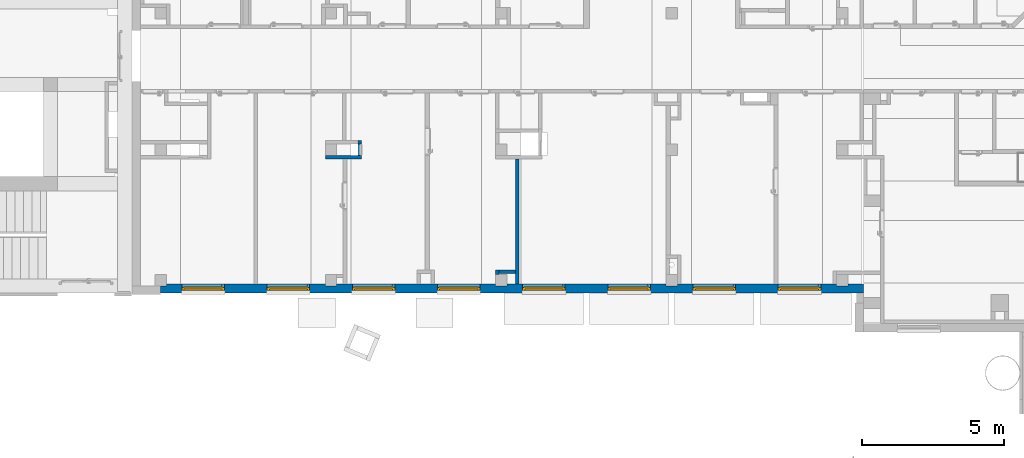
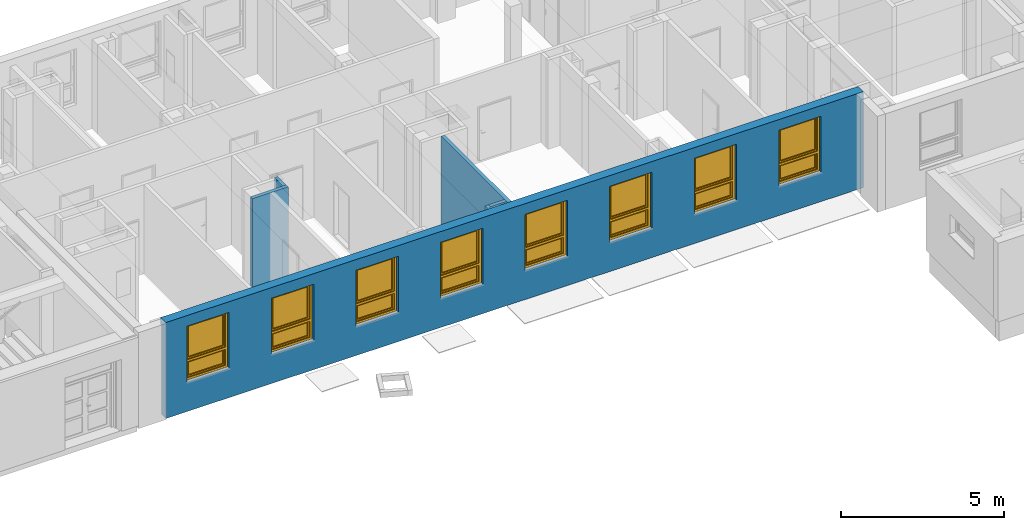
# One storey, part 16 of 140: 8 windows, 6 walls, 9 openings.
"""IFC4 building model written with IfcOpenShell, lengths in metres."""

from ifc_helpers import new_model, entity, si_unit, converted_unit, derived_unit, frame, frame_2d, origin, origin_with_axes, place, context, subcontext, project, spatial, polyline, rectangle, outline, extrude, clip, bounded_halfspace, closed_shell, open_shell, surface_model, source, transform, mapped, material, layer, layer_set, layer_usage, element, fill, save


model = new_model("IFC4")

# Units and contexts
model_context = context("Model", 3, precision=1e-05, world=origin())
body_context = subcontext(model_context, "Body", "Model", "MODEL_VIEW")
ifc_project = project(units=[si_unit("LENGTHUNIT", "METRE"), si_unit("AREAUNIT", "SQUARE_METRE"), si_unit("VOLUMEUNIT", "CUBIC_METRE"), si_unit("MASSUNIT", "GRAM", prefix="KILO"), converted_unit("PLANEANGLEUNIT", "DEGREE", entity("IfcPlaneAngleMeasure", 0.0174532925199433), si_unit("PLANEANGLEUNIT", "RADIAN"), dimensions=[0, 0, 0, 0, 0, 0, 0]), derived_unit("THERMALTRANSMITTANCEUNIT", [(si_unit("POWERUNIT", "WATT"), 1), (si_unit("THERMODYNAMICTEMPERATUREUNIT", "KELVIN"), -1), (si_unit("LENGTHUNIT", "METRE"), -2)]), derived_unit("VOLUMETRICFLOWRATEUNIT", [(si_unit("LENGTHUNIT", "METRE"), 3), (converted_unit("TIMEUNIT", "hour", entity("IfcTimeMeasure", 3600.0), si_unit("TIMEUNIT", "SECOND"), dimensions=[0, 0, 1, 0, 0, 0, 0]), -1), (si_unit("LENGTHUNIT", "METRE"), -1)])], contexts=[model_context])

# Site, building, storey
site_placement = place(None, origin())
site = spatial("IfcSite", under=ifc_project, at=site_placement, Name="3. ASŘ", CompositionType="ELEMENT")
building_placement = place(site_placement, origin())
building = spatial("IfcBuilding", under=site, at=building_placement, Name="Pavilon C", CompositionType="ELEMENT")
storey_placement = place(building_placement, origin())
storey = spatial("IfcBuildingStorey", under=building, at=storey_placement, Name="Půdorys 1.NP", CompositionType="ELEMENT", Elevation=0.0)

# Wall, openings, windows
ifc_material_1 = material(Name="ZELEZOBETONOVÁ KCE")
ifc_layer_1 = layer(ifc_material_1, 0.32)
ifc_layer_set_1 = layer_set([ifc_layer_1])
ifc_layer_usage_1 = layer_usage(ifc_layer_set_1, "AXIS2", "POSITIVE", 0.0)
wall_1_placement = place(storey_placement, frame((3.86535248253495e-15, 0.350000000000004, -0.1)))
wall_1 = element("IfcWall", 1, at=wall_1_placement, inside=storey, material=ifc_layer_usage_1, Name="ZELEZOBETONOVÁ KCE", context=body_context, shape_type="Clipping", body=[
    clip(clip(clip(clip(clip(extrude(rectangle(XDim=24.75, YDim=0.32, at=frame_2d((12.375, 0.16), x_axis=(1.0, 0.0))), origin_with_axes(), (0.0, 0.0, 1.0), 3.6), bounded_halfspace(frame((0.100000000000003, 0.285, 3.35), z_axis=(0.0, 0.0, 1.0), x_axis=(0.0, -1.0, 0.0)), True, origin_with_axes(), polyline([(-2.27373675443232e-16, 0.32), (-2.27373675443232e-16, 0.25), (0.200000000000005, 0.25), (0.200000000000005, 0.32), (-2.27373675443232e-16, 0.32)]))), bounded_halfspace(frame((18.0, 0.284999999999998, 3.35), z_axis=(0.0, 0.0, 1.0), x_axis=(-1.0, 0.0, 0.0)), True, origin_with_axes(), polyline([(18.2, 0.32), (17.8, 0.32), (17.8, 0.249999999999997), (18.2, 0.249999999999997), (18.2, 0.32)]))), bounded_halfspace(frame((12.0, 0.284999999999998, 3.35), z_axis=(0.0, 0.0, 1.0), x_axis=(-1.0, 0.0, 0.0)), True, origin_with_axes(), polyline([(12.2, 0.32), (11.8, 0.32), (11.8, 0.249999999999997), (12.2, 0.249999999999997), (12.2, 0.32)]))), bounded_halfspace(frame((6.00000000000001, 0.284999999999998, 3.35), z_axis=(0.0, 0.0, 1.0), x_axis=(-1.0, 0.0, 0.0)), True, origin_with_axes(), polyline([(6.20000000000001, 0.32), (5.80000000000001, 0.32), (5.80000000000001, 0.249999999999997), (6.20000000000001, 0.249999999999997), (6.20000000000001, 0.32)]))), bounded_halfspace(frame((24.0, 0.284999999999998, 3.35), z_axis=(0.0, 0.0, 1.0), x_axis=(-1.0, 0.0, 0.0)), True, origin_with_axes(), polyline([(24.2, 0.32), (23.8, 0.32), (23.8, 0.249999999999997), (24.2, 0.249999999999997), (24.2, 0.32)]))),
])
opening_1_placement = place(wall_1_placement, frame((3.75, 0.0, 1.1), z_axis=(0.0, 1.0, 0.0), x_axis=(0.0, 0.0, 1.0)))
opening_1 = element("IfcOpeningElement", 2, at=opening_1_placement, cuts=wall_1, Name="Okenní otvor", ObjectType="Opening", context=body_context, shape_type="SweptSolid", body=[
    extrude(outline(polyline([(0.0, 1.5), (2.1, 1.5), (2.1, 0.0), (0.0, 0.0), (0.0, 1.5)])), origin_with_axes(), (0.0, 0.0, 1.0), 0.32),
])
opening_2_placement = place(wall_1_placement, frame((6.75, 0.0, 1.1), z_axis=(0.0, 1.0, 0.0), x_axis=(0.0, 0.0, 1.0)))
opening_2 = element("IfcOpeningElement", 3, at=opening_2_placement, cuts=wall_1, Name="Okenní otvor", ObjectType="Opening", context=body_context, shape_type="SweptSolid", body=[
    extrude(outline(polyline([(0.0, 1.5), (2.1, 1.5), (2.1, 0.0), (0.0, 0.0), (0.0, 1.5)])), origin_with_axes(), (0.0, 0.0, 1.0), 0.32),
])
opening_3_placement = place(wall_1_placement, frame((9.75, 0.0, 1.1), z_axis=(0.0, 1.0, 0.0), x_axis=(0.0, 0.0, 1.0)))
opening_3 = element("IfcOpeningElement", 4, at=opening_3_placement, cuts=wall_1, Name="Okenní otvor", ObjectType="Opening", context=body_context, shape_type="SweptSolid", body=[
    extrude(outline(polyline([(0.0, 1.5), (2.1, 1.5), (2.1, 0.0), (0.0, 0.0), (0.0, 1.5)])), origin_with_axes(), (0.0, 0.0, 1.0), 0.32),
])
opening_4_placement = place(wall_1_placement, frame((12.75, 0.0, 1.1), z_axis=(0.0, 1.0, 0.0), x_axis=(0.0, 0.0, 1.0)))
opening_4 = element("IfcOpeningElement", 5, at=opening_4_placement, cuts=wall_1, Name="Okenní otvor", ObjectType="Opening", context=body_context, shape_type="SweptSolid", body=[
    extrude(outline(polyline([(0.0, 1.5), (2.1, 1.5), (2.1, 0.0), (0.0, 0.0), (0.0, 1.5)])), origin_with_axes(), (0.0, 0.0, 1.0), 0.32),
])
opening_5_placement = place(wall_1_placement, frame((15.75, 0.0, 1.1), z_axis=(0.0, 1.0, 0.0), x_axis=(0.0, 0.0, 1.0)))
opening_5 = element("IfcOpeningElement", 6, at=opening_5_placement, cuts=wall_1, Name="Okenní otvor", ObjectType="Opening", context=body_context, shape_type="SweptSolid", body=[
    extrude(outline(polyline([(0.0, 1.5), (2.1, 1.5), (2.1, 0.0), (0.0, 0.0), (0.0, 1.5)])), origin_with_axes(), (0.0, 0.0, 1.0), 0.32),
])
opening_6_placement = place(wall_1_placement, frame((18.75, 0.0, 1.1), z_axis=(0.0, 1.0, 0.0), x_axis=(0.0, 0.0, 1.0)))
opening_6 = element("IfcOpeningElement", 7, at=opening_6_placement, cuts=wall_1, Name="Okenní otvor", ObjectType="Opening", context=body_context, shape_type="SweptSolid", body=[
    extrude(outline(polyline([(0.0, 1.5), (2.1, 1.5), (2.1, 0.0), (0.0, 0.0), (0.0, 1.5)])), origin_with_axes(), (0.0, 0.0, 1.0), 0.32),
])
opening_7_placement = place(wall_1_placement, frame((21.75, 0.0, 1.1), z_axis=(0.0, 1.0, 0.0), x_axis=(0.0, 0.0, 1.0)))
opening_7 = element("IfcOpeningElement", 8, at=opening_7_placement, cuts=wall_1, Name="Okenní otvor", ObjectType="Opening", context=body_context, shape_type="SweptSolid", body=[
    extrude(outline(polyline([(0.0, 1.5), (2.1, 1.5), (2.1, 0.0), (0.0, 0.0), (0.0, 1.5)])), origin_with_axes(), (0.0, 0.0, 1.0), 0.32),
])
opening_8_placement = place(wall_1_placement, frame((0.75, 0.0, 1.1), z_axis=(0.0, 1.0, 0.0), x_axis=(0.0, 0.0, 1.0)))
opening_8 = element("IfcOpeningElement", 9, at=opening_8_placement, cuts=wall_1, Name="Okenní otvor", ObjectType="Opening", context=body_context, shape_type="SweptSolid", body=[
    extrude(outline(polyline([(0.0, 1.5), (2.1, 1.5), (2.1, 0.0), (0.0, 0.0), (0.0, 1.5)])), origin_with_axes(), (0.0, 0.0, 1.0), 0.32),
])
shared_shape = source(origin_with_axes(), body_context, "Body", "SurfaceModel", [
    surface_model("IfcShellBasedSurfaceModel", [(0.0, 0.182, 2.1), (0.0, 0.182, -5.63337527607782e-18), (0.08, 0.182, -5.63337527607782e-18), (0.08, 0.182, 2.1), (0.0, 0.0899999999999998, 5.63337527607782e-18), (0.0, 0.0900000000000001, 2.1), (0.08, 0.0900000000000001, 2.1), (0.08, 0.0899999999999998, 5.63337527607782e-18)], [closed_shell([[[0, 1, 2, 3]], [[4, 5, 6, 7]], [[1, 0, 5, 4]], [[2, 1, 4, 7]], [[3, 2, 7, 6]], [[0, 3, 6, 5]]], orient=[[False], [False], [False], [False], [False], [False]])]),
    surface_model("IfcShellBasedSurfaceModel", [(1.42, 0.182, 2.1), (1.42, 0.182, -5.63337527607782e-18), (1.5, 0.182, -5.63337527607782e-18), (1.5, 0.182, 2.1), (1.42, 0.0899999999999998, 5.63337527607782e-18), (1.42, 0.0900000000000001, 2.1), (1.5, 0.0900000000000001, 2.1), (1.5, 0.0899999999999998, 5.63337527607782e-18)], [closed_shell([[[0, 1, 2, 3]], [[4, 5, 6, 7]], [[1, 0, 5, 4]], [[2, 1, 4, 7]], [[3, 2, 7, 6]], [[0, 3, 6, 5]]], orient=[[False], [False], [False], [False], [False], [False]])]),
    surface_model("IfcShellBasedSurfaceModel", [(0.08, 0.182, 0.08), (0.08, 0.182, -5.63337527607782e-18), (1.42, 0.182, -5.63337527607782e-18), (1.42, 0.182, 0.08), (0.08, 0.0899999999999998, 5.63337527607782e-18), (0.08, 0.0899999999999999, 0.08), (1.42, 0.0899999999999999, 0.08), (1.42, 0.0899999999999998, 5.63337527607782e-18)], [closed_shell([[[0, 1, 2, 3]], [[4, 5, 6, 7]], [[1, 0, 5, 4]], [[2, 1, 4, 7]], [[3, 2, 7, 6]], [[0, 3, 6, 5]]], orient=[[False], [False], [False], [False], [False], [False]])]),
    surface_model("IfcShellBasedSurfaceModel", [(0.08, 0.182, 2.1), (0.08, 0.182, 2.02), (1.42, 0.182, 2.02), (1.42, 0.182, 2.1), (0.08, 0.0900000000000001, 2.02), (0.08, 0.0900000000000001, 2.1), (1.42, 0.0900000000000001, 2.1), (1.42, 0.0900000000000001, 2.02)], [closed_shell([[[0, 1, 2, 3]], [[4, 5, 6, 7]], [[1, 0, 5, 4]], [[2, 1, 4, 7]], [[3, 2, 7, 6]], [[0, 3, 6, 5]]], orient=[[False], [False], [False], [False], [False], [False]])]),
    surface_model("IfcShellBasedSurfaceModel", [(0.08, 0.182, 0.76), (0.08, 0.182, 0.68), (1.42, 0.182, 0.68), (1.42, 0.182, 0.76), (0.08, 0.0899999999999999, 0.68), (0.08, 0.0899999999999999, 0.76), (1.42, 0.0899999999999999, 0.76), (1.42, 0.0899999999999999, 0.68)], [closed_shell([[[0, 1, 2, 3]], [[4, 5, 6, 7]], [[1, 0, 5, 4]], [[2, 1, 4, 7]], [[3, 2, 7, 6]], [[0, 3, 6, 5]]], orient=[[False], [False], [False], [False], [False], [False]])]),
    surface_model("IfcShellBasedSurfaceModel", [(0.05, 0.145, 0.71), (0.05, 0.145, 0.05), (0.13, 0.145, 0.05), (0.13, 0.145, 0.71), (0.05, 0.0599999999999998, 0.05), (0.05, 0.0599999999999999, 0.71), (0.13, 0.0599999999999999, 0.71), (0.13, 0.0599999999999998, 0.05)], [closed_shell([[[0, 1, 2, 3]], [[4, 5, 6, 7]], [[1, 0, 5, 4]], [[2, 1, 4, 7]], [[3, 2, 7, 6]], [[0, 3, 6, 5]]], orient=[[False], [False], [False], [False], [False], [False]])]),
    surface_model("IfcShellBasedSurfaceModel", [(1.37, 0.145, 0.71), (1.37, 0.145, 0.05), (1.45, 0.145, 0.05), (1.45, 0.145, 0.71), (1.37, 0.0599999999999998, 0.05), (1.37, 0.0599999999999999, 0.71), (1.45, 0.0599999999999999, 0.71), (1.45, 0.0599999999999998, 0.05)], [closed_shell([[[0, 1, 2, 3]], [[4, 5, 6, 7]], [[1, 0, 5, 4]], [[2, 1, 4, 7]], [[3, 2, 7, 6]], [[0, 3, 6, 5]]], orient=[[False], [False], [False], [False], [False], [False]])]),
    surface_model("IfcShellBasedSurfaceModel", [(0.13, 0.145, 0.13), (0.13, 0.145, 0.05), (1.37, 0.145, 0.05), (1.37, 0.145, 0.13), (0.13, 0.0599999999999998, 0.05), (0.13, 0.0599999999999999, 0.13), (1.37, 0.0599999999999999, 0.13), (1.37, 0.0599999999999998, 0.05)], [closed_shell([[[0, 1, 2, 3]], [[4, 5, 6, 7]], [[1, 0, 5, 4]], [[2, 1, 4, 7]], [[3, 2, 7, 6]], [[0, 3, 6, 5]]], orient=[[False], [False], [False], [False], [False], [False]])]),
    surface_model("IfcShellBasedSurfaceModel", [(0.13, 0.145, 0.71), (0.13, 0.145, 0.63), (1.37, 0.145, 0.63), (1.37, 0.145, 0.71), (0.13, 0.0599999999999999, 0.63), (0.13, 0.0599999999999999, 0.71), (1.37, 0.0599999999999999, 0.71), (1.37, 0.0599999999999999, 0.63)], [closed_shell([[[0, 1, 2, 3]], [[4, 5, 6, 7]], [[1, 0, 5, 4]], [[2, 1, 4, 7]], [[3, 2, 7, 6]], [[0, 3, 6, 5]]], orient=[[False], [False], [False], [False], [False], [False]])]),
    surface_model("IfcShellBasedSurfaceModel", [(0.05, 0.145, 2.05), (0.05, 0.145, 0.73), (0.13, 0.145, 0.73), (0.13, 0.145, 2.05), (0.05, 0.0599999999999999, 0.73), (0.05, 0.0600000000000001, 2.05), (0.13, 0.0600000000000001, 2.05), (0.13, 0.0599999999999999, 0.73)], [closed_shell([[[0, 1, 2, 3]], [[4, 5, 6, 7]], [[1, 0, 5, 4]], [[2, 1, 4, 7]], [[3, 2, 7, 6]], [[0, 3, 6, 5]]], orient=[[False], [False], [False], [False], [False], [False]])]),
    surface_model("IfcShellBasedSurfaceModel", [(1.37, 0.145, 2.05), (1.37, 0.145, 0.73), (1.45, 0.145, 0.73), (1.45, 0.145, 2.05), (1.37, 0.0599999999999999, 0.73), (1.37, 0.0600000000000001, 2.05), (1.45, 0.0600000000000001, 2.05), (1.45, 0.0599999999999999, 0.73)], [closed_shell([[[0, 1, 2, 3]], [[4, 5, 6, 7]], [[1, 0, 5, 4]], [[2, 1, 4, 7]], [[3, 2, 7, 6]], [[0, 3, 6, 5]]], orient=[[False], [False], [False], [False], [False], [False]])]),
    surface_model("IfcShellBasedSurfaceModel", [(0.13, 0.145, 0.81), (0.13, 0.145, 0.73), (1.37, 0.145, 0.73), (1.37, 0.145, 0.81), (0.13, 0.0599999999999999, 0.73), (0.13, 0.0599999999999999, 0.81), (1.37, 0.0599999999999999, 0.81), (1.37, 0.0599999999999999, 0.73)], [closed_shell([[[0, 1, 2, 3]], [[4, 5, 6, 7]], [[1, 0, 5, 4]], [[2, 1, 4, 7]], [[3, 2, 7, 6]], [[0, 3, 6, 5]]], orient=[[False], [False], [False], [False], [False], [False]])]),
    surface_model("IfcShellBasedSurfaceModel", [(0.13, 0.145, 2.05), (0.13, 0.145, 1.97), (1.37, 0.145, 1.97), (1.37, 0.145, 2.05), (0.13, 0.0600000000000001, 1.97), (0.13, 0.0600000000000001, 2.05), (1.37, 0.0600000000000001, 2.05), (1.37, 0.0600000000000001, 1.97)], [closed_shell([[[0, 1, 2, 3]], [[4, 5, 6, 7]], [[1, 0, 5, 4]], [[2, 1, 4, 7]], [[3, 2, 7, 6]], [[0, 3, 6, 5]]], orient=[[False], [False], [False], [False], [False], [False]])]),
    surface_model("IfcShellBasedSurfaceModel", [(0.0775, 0.06, 1.41), (0.0775, 0.06, 1.37), (0.1025, 0.06, 1.37), (0.1025, 0.06, 1.41), (0.0775, 0.05, 1.37), (0.0775, 0.05, 1.41), (0.1025, 0.05, 1.41), (0.1025, 0.05, 1.37)], [closed_shell([[[0, 1, 2, 3]], [[4, 5, 6, 7]], [[1, 0, 5, 4]], [[2, 1, 4, 7]], [[3, 2, 7, 6]], [[0, 3, 6, 5]]], orient=[[False], [False], [False], [False], [False], [False]])]),
    surface_model("IfcShellBasedSurfaceModel", [(0.1, 0.05, 1.39), (0.0986602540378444, 0.05, 1.395), (0.095, 0.05, 1.39866025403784), (0.09, 0.05, 1.4), (0.085, 0.05, 1.39866025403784), (0.0813397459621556, 0.05, 1.395), (0.08, 0.05, 1.39), (0.0813397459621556, 0.05, 1.385), (0.085, 0.05, 1.38133974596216), (0.09, 0.05, 1.38), (0.095, 0.05, 1.38133974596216), (0.0986602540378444, 0.05, 1.385), (0.1, 0.01, 1.39), (0.0986602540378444, 0.00500000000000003, 1.395), (0.095, 0.00133974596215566, 1.39866025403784), (0.09, 2.8421709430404e-17, 1.4), (0.085, 0.00133974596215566, 1.39866025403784), (0.0813397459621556, 0.00500000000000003, 1.395), (0.08, 0.01, 1.39), (0.0813397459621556, 0.015, 1.385), (0.085, 0.0186602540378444, 1.38133974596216), (0.09, 0.02, 1.38), (0.095, 0.0186602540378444, 1.38133974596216), (0.0986602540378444, 0.015, 1.385), (0.1, 0.01, 1.275), (0.0986602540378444, 0.005, 1.275), (0.095, 0.00133974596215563, 1.275), (0.09, 0.0, 1.275), (0.085, 0.00133974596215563, 1.275), (0.0813397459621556, 0.005, 1.275), (0.08, 0.01, 1.275), (0.0813397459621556, 0.015, 1.275), (0.085, 0.0186602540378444, 1.275), (0.09, 0.02, 1.275), (0.095, 0.0186602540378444, 1.275), (0.0986602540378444, 0.015, 1.275)], [open_shell([[[0, 1, 2, 3, 4, 5, 6, 7, 8, 9, 10, 11]], [[0, 12, 13, 1]], [[1, 13, 14, 2]], [[2, 14, 15, 3]], [[3, 15, 16, 4]], [[4, 16, 17, 5]], [[5, 17, 18, 6]], [[6, 18, 19, 7]], [[7, 19, 20, 8]], [[8, 20, 21, 9]], [[9, 21, 22, 10]], [[10, 22, 23, 11]], [[11, 23, 12, 0]], [[12, 24, 25, 13]], [[13, 25, 26, 14]], [[14, 26, 27, 15]], [[15, 27, 28, 16]], [[16, 28, 29, 17]], [[17, 29, 30, 18]], [[18, 30, 31, 19]], [[19, 31, 32, 20]], [[20, 32, 33, 21]], [[21, 33, 34, 22]], [[22, 34, 35, 23]], [[23, 35, 24, 12]]], orient=[[False], [False], [False], [False], [False], [False], [False], [False], [False], [False], [False], [False], [False], [False], [False], [False], [False], [False], [False], [False], [False], [False], [False], [False], [False]])]),
    surface_model("IfcShellBasedSurfaceModel", [(0.13, 0.1025, 0.13), (1.37, 0.1025, 0.13), (1.37, 0.1025, 0.63), (0.13, 0.1025, 0.63)], [open_shell([[[0, 1, 2, 3]]], orient=[[False]])]),
    surface_model("IfcShellBasedSurfaceModel", [(0.13, 0.1025, 0.81), (1.37, 0.1025, 0.81), (1.37, 0.1025, 1.97), (0.13, 0.1025, 1.97)], [open_shell([[[0, 1, 2, 3]]], orient=[[False]])]),
])
window_1_placement = place(opening_1_placement, frame((0.0, 1.5, 0.282), z_axis=(1.0, 0.0, 0.0), x_axis=(0.0, -1.0, 1.22464679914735e-16)))
window_1 = element("IfcWindow", 10, at=window_1_placement, inside=storey, Name="O06", OverallHeight=2.1, OverallWidth=1.5, PartitioningType="USERDEFINED", PredefinedType="WINDOW", context=body_context, shape_type="MappedRepresentation", body=[
    mapped(shared_shape, transform((0.0, 0.0, 0.0), x_axis=(1.0, 0.0, 0.0), y_axis=(0.0, 1.0, 0.0), z_axis=(0.0, 0.0, 1.0), scale=1.0)),
])
fill(opening_1, window_1)
window_2_placement = place(opening_2_placement, frame((0.0, 1.5, 0.282), z_axis=(1.0, 0.0, 0.0), x_axis=(0.0, -0.999999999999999, 1.22464679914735e-16)))
window_2 = element("IfcWindow", 11, at=window_2_placement, inside=storey, Name="O06", OverallHeight=2.1, OverallWidth=1.5, PartitioningType="USERDEFINED", PredefinedType="WINDOW", context=body_context, shape_type="MappedRepresentation", body=[
    mapped(shared_shape, transform((0.0, 0.0, 0.0), x_axis=(1.0, 0.0, 0.0), y_axis=(0.0, 1.0, 0.0), z_axis=(0.0, 0.0, 1.0), scale=0.999999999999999)),
])
fill(opening_2, window_2)
window_3_placement = place(opening_3_placement, frame((0.0, 1.5, 0.282), z_axis=(1.0, 0.0, 0.0), x_axis=(0.0, -1.0, 1.22464679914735e-16)))
window_3 = element("IfcWindow", 12, at=window_3_placement, inside=storey, Name="O06", OverallHeight=2.1, OverallWidth=1.5, PartitioningType="USERDEFINED", PredefinedType="WINDOW", context=body_context, shape_type="MappedRepresentation", body=[
    mapped(shared_shape, transform((0.0, 0.0, 0.0), x_axis=(1.0, 0.0, 0.0), y_axis=(0.0, 1.0, 0.0), z_axis=(0.0, 0.0, 1.0), scale=1.0)),
])
fill(opening_3, window_3)
window_4_placement = place(opening_4_placement, frame((0.0, 1.5, 0.282), z_axis=(1.0, 0.0, 0.0), x_axis=(0.0, -1.0, 1.22464679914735e-16)))
window_4 = element("IfcWindow", 13, at=window_4_placement, inside=storey, Name="O06", OverallHeight=2.1, OverallWidth=1.5, PartitioningType="USERDEFINED", PredefinedType="WINDOW", context=body_context, shape_type="MappedRepresentation", body=[
    mapped(shared_shape, transform((0.0, 0.0, 0.0), x_axis=(1.0, 0.0, 0.0), y_axis=(0.0, 1.0, 0.0), z_axis=(0.0, 0.0, 1.0), scale=1.0)),
])
fill(opening_4, window_4)
window_5_placement = place(opening_5_placement, frame((0.0, 1.5, 0.282), z_axis=(1.0, 0.0, 0.0), x_axis=(0.0, -1.0, 1.22464679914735e-16)))
window_5 = element("IfcWindow", 14, at=window_5_placement, inside=storey, Name="O06", OverallHeight=2.1, OverallWidth=1.5, PartitioningType="USERDEFINED", PredefinedType="WINDOW", context=body_context, shape_type="MappedRepresentation", body=[
    mapped(shared_shape, transform((0.0, 0.0, 0.0), x_axis=(1.0, 0.0, 0.0), y_axis=(0.0, 1.0, 0.0), z_axis=(0.0, 0.0, 1.0), scale=1.0)),
])
fill(opening_5, window_5)
window_6_placement = place(opening_6_placement, frame((0.0, 1.5, 0.282), z_axis=(1.0, 0.0, 0.0), x_axis=(0.0, -1.0, 1.22464679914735e-16)))
window_6 = element("IfcWindow", 15, at=window_6_placement, inside=storey, Name="O06", OverallHeight=2.1, OverallWidth=1.5, PartitioningType="USERDEFINED", PredefinedType="WINDOW", context=body_context, shape_type="MappedRepresentation", body=[
    mapped(shared_shape, transform((0.0, 0.0, 0.0), x_axis=(1.0, 0.0, 0.0), y_axis=(0.0, 1.0, 0.0), z_axis=(0.0, 0.0, 1.0), scale=1.0)),
])
fill(opening_6, window_6)
window_7_placement = place(opening_7_placement, frame((0.0, 1.5, 0.282), z_axis=(1.0, 0.0, 0.0), x_axis=(0.0, -1.0, 1.22464679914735e-16)))
window_7 = element("IfcWindow", 16, at=window_7_placement, inside=storey, Name="O06", OverallHeight=2.1, OverallWidth=1.5, PartitioningType="USERDEFINED", PredefinedType="WINDOW", context=body_context, shape_type="MappedRepresentation", body=[
    mapped(shared_shape, transform((0.0, 0.0, 0.0), x_axis=(1.0, 0.0, 0.0), y_axis=(0.0, 1.0, 0.0), z_axis=(0.0, 0.0, 1.0), scale=1.0)),
])
fill(opening_7, window_7)
window_8_placement = place(opening_8_placement, frame((0.0, 1.5, 0.282), z_axis=(1.0, 0.0, 0.0), x_axis=(0.0, -1.0, 1.22464679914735e-16)))
window_8 = element("IfcWindow", 17, at=window_8_placement, inside=storey, Name="O06", OverallHeight=2.1, OverallWidth=1.5, PartitioningType="USERDEFINED", PredefinedType="WINDOW", context=body_context, shape_type="MappedRepresentation", body=[
    mapped(shared_shape, transform((0.0, 0.0, 0.0), x_axis=(1.0, 0.0, 0.0), y_axis=(0.0, 1.0, 0.0), z_axis=(0.0, 0.0, 1.0), scale=1.0)),
])
fill(opening_8, window_8)

# Walls
ifc_material_2 = material(Name="ZDIVO Z CDm")
ifc_layer_2 = layer(ifc_material_2, 0.125)
ifc_layer_set_2 = layer_set([ifc_layer_2])
ifc_layer_usage_2 = layer_usage(ifc_layer_set_2, "AXIS2", "POSITIVE", 0.0)
wall_2_placement = place(storey_placement, frame((7.07500000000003, 5.2, -0.1), z_axis=(0.0, 0.0, 1.0), x_axis=(-1.0, 0.0, 0.0)))
element("IfcWall", 18, at=wall_2_placement, inside=storey, material=ifc_layer_usage_2, Name="ZDIVO Z CDm", context=body_context, shape_type="SweptSolid", body=[
    extrude(rectangle(XDim=1.27500000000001, YDim=0.125, at=frame_2d((0.637500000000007, 0.0625), x_axis=(1.0, 0.0))), origin_with_axes(), (0.0, 0.0, 1.0), 3.35),
])
ifc_material_3 = material(Name="ZDIVO Z CDm")
ifc_layer_3 = layer(ifc_material_3, 0.125)
ifc_layer_set_3 = layer_set([ifc_layer_3])
ifc_layer_usage_3 = layer_usage(ifc_layer_set_3, "AXIS2", "POSITIVE", 0.0)
wall_3_placement = place(storey_placement, frame((12.5, 5.075, -0.1), z_axis=(0.0, 0.0, 1.0), x_axis=(0.0, -1.0, 0.0)))
element("IfcWall", 19, at=wall_3_placement, inside=storey, material=ifc_layer_usage_3, Name="ZDIVO Z CDm", context=body_context, shape_type="SweptSolid", body=[
    extrude(rectangle(XDim=4.40499999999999, YDim=0.125, at=frame_2d((2.2025, 0.0625), x_axis=(1.0, 0.0))), origin_with_axes(), (0.0, 0.0, 1.0), 3.35),
])
ifc_material_4 = material(Name="ZDIVO Z CDm")
ifc_layer_4 = layer(ifc_material_4, 0.125)
ifc_layer_set_4 = layer_set([ifc_layer_4])
ifc_layer_usage_4 = layer_usage(ifc_layer_set_4, "AXIS2", "POSITIVE", 0.0)
wall_4_placement = place(storey_placement, frame((11.8, 1.17, -0.1), z_axis=(0.0, 0.0, 1.0), x_axis=(0.0, -1.0, 0.0)))
element("IfcWall", 20, at=wall_4_placement, inside=storey, material=ifc_layer_usage_4, Name="ZDIVO Z CDm", context=body_context, shape_type="SweptSolid", body=[
    extrude(rectangle(XDim=0.170000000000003, YDim=0.125, at=frame_2d((0.0850000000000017, 0.0625), x_axis=(1.0, 0.0))), origin_with_axes(), (0.0, 0.0, 1.0), 3.35),
])
ifc_material_5 = material(Name="ZDIVO Z CDm")
ifc_layer_5 = layer(ifc_material_5, 0.125)
ifc_layer_set_5 = layer_set([ifc_layer_5])
ifc_layer_usage_5 = layer_usage(ifc_layer_set_5, "AXIS2", "POSITIVE", 0.0)
wall_5_placement = place(storey_placement, frame((12.5, 1.17, -0.1), z_axis=(0.0, 0.0, 1.0), x_axis=(-1.0, 0.0, 0.0)))
element("IfcWall", 21, at=wall_5_placement, inside=storey, material=ifc_layer_usage_5, Name="ZDIVO Z CDm", context=body_context, shape_type="SweptSolid", body=[
    extrude(rectangle(XDim=0.575, YDim=0.125, at=frame_2d((0.2875, 0.0625), x_axis=(1.0, 0.0))), origin_with_axes(), (0.0, 0.0, 1.0), 3.35),
])

# Wall, opening
ifc_material_6 = material(Name="ZDIVO Z CDm")
ifc_layer_6 = layer(ifc_material_6, 0.125)
ifc_layer_set_6 = layer_set([ifc_layer_6])
ifc_layer_usage_6 = layer_usage(ifc_layer_set_6, "AXIS2", "POSITIVE", 0.0)
wall_6_placement = place(storey_placement, frame((6.95000000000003, 5.725, -0.1), z_axis=(0.0, 0.0, 1.0), x_axis=(0.0, -1.0, 0.0)))
wall_6 = element("IfcWall", 22, at=wall_6_placement, inside=storey, material=ifc_layer_usage_6, Name="ZDIVO Z CDm", context=body_context, shape_type="SweptSolid", body=[
    extrude(rectangle(XDim=0.525, YDim=0.125, at=frame_2d((0.2625, 0.0625), x_axis=(1.0, 0.0))), origin_with_axes(), (0.0, 0.0, 1.0), 3.35),
])
opening_9_placement = place(wall_6_placement, frame((0.525, 0.125, 1.1), z_axis=(0.0, -1.0, 0.0), x_axis=(0.0, 0.0, 1.0)))
element("IfcOpeningElement", 23, at=opening_9_placement, cuts=wall_6, Name="Okenní otvor", ObjectType="Opening", context=body_context, shape_type="SweptSolid", body=[
    extrude(outline(polyline([(0.0, 0.399999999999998), (1.0, 0.399999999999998), (1.0, 0.0), (0.0, 0.0), (0.0, 0.399999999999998)])), origin_with_axes(), (0.0, 0.0, 1.0), 0.125),
])

save(model, "model.ifc")
